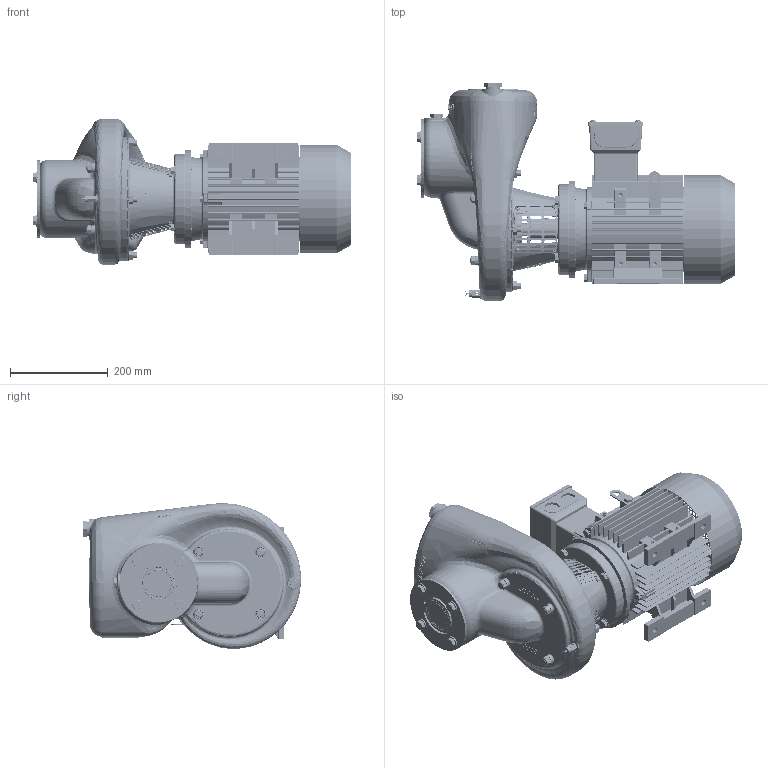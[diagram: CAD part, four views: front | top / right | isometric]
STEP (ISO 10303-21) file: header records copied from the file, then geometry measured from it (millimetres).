
FILE_DESCRIPTION((''),'2;1');
FILE_NAME('690853_ASM','2019-09-30T',('BRHE'),(''),'PRO/ENGINEER BY PARAMETRIC TECHNOLOGY CORPORATION, 2017170','PRO/ENGINEER BY PARAMETRIC TECHNOLOGY CORPORATION, 2017170','');
FILE_SCHEMA(('CONFIG_CONTROL_DESIGN'));
Products named in the file (32): 591660; 591761; 704188; 506963; 190553; 704287; 700315; 710967; 715012; 704018; 703135; 700224; 704063; 704186; 506961; 709500; 690844_ASM; 591810; 590980; 700013; 705754; 710968; 3007-010HA082; 704003; 705258; 190700_AF0; 706717; 690847_ASM; 712094_AF2; 591831; 842252; 690853_ASM
Assembly tree (67 placements, depth 3):
  690853_ASM
    690844_ASM
      591660
      591761
      704188
      506963
      190553
      704287  x4
      700315  x4
      710967
      715012  x4
      704018  x4
      703135  x4
      700224  x4
      704063  x4
      704186
      506961
      709500
    690847_ASM
      591810
      590980
      700013
      705754
      710968
      3007-010HA082  x2
      704003  x4
      705258  x4
      190700_AF0  x2
      706717  x8
    712094_AF2
    591831
    842252
Bounding box: 652 x 445.84 x 297.83 mm (x, y, z)
Volume: 21699580.6 mm3; surface area: 1812526.1 mm2
Topology: 67 solids, 106 shells, 5426 faces, 14361 edges, 9181 vertices
Faces by surface type: plane 2921, cylinder 963, bspline 623, cone 539, torus 189, extrusion 145, sphere 46
Entity records: 200679 total; most frequent: CARTESIAN_POINT 89365, ORIENTED_EDGE 24976, DIRECTION 19550, EDGE_CURVE 12555, VERTEX_POINT 8104, AXIS2_PLACEMENT_3D 6618, VECTOR 6314, LINE 6169
